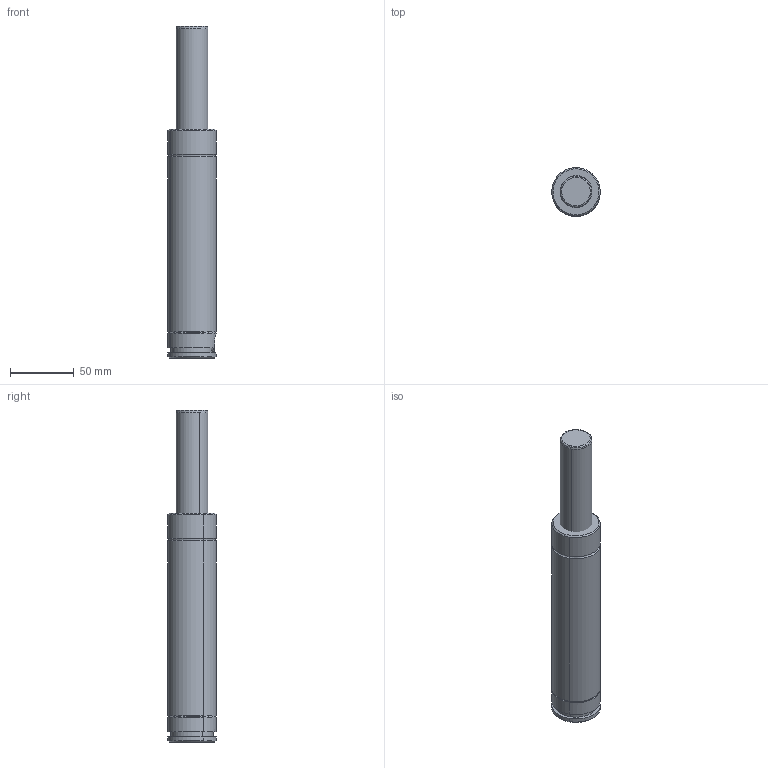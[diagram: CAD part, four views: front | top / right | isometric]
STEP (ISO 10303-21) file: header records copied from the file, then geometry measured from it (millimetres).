
FILE_DESCRIPTION(('CATIA V5 STEP Exchange'),'2;1');
FILE_NAME('W:\CATALOGO GENERAL 2018\FICHEROS CAD\003-TPH\TPH 1000C\TPH1000x80C.stp','2017-10-30T11:11:08+00:00',('none'),('none'),'CATIA Version 5 Release 17 (IN-10)','CATIA V5 STEP AP203','none');
FILE_SCHEMA(('CONFIG_CONTROL_DESIGN'));
Length unit declared in the file: millimetre
Products named in the file (1): TPH 1000x80C
Assembly tree (4 placements, depth 2):
  TPH 1000x80C
    #56
    #489
    #1029
    #1942
Bounding box: 37.99 x 37.99 x 260 mm (x, y, z)
Volume: 244980.1 mm3; surface area: 36995.5 mm2
Topology: 4 solids, 4 shells, 151 faces, 310 edges, 180 vertices
Faces by surface type: cone 44, cylinder 41, torus 36, plane 30
Entity records: 3681 total; most frequent: CARTESIAN_POINT 667, ORIENTED_EDGE 620, DIRECTION 504, EDGE_CURVE 310, AXIS2_PLACEMENT_3D 300, CIRCLE 196, VERTEX_POINT 180, EDGE_LOOP 164
